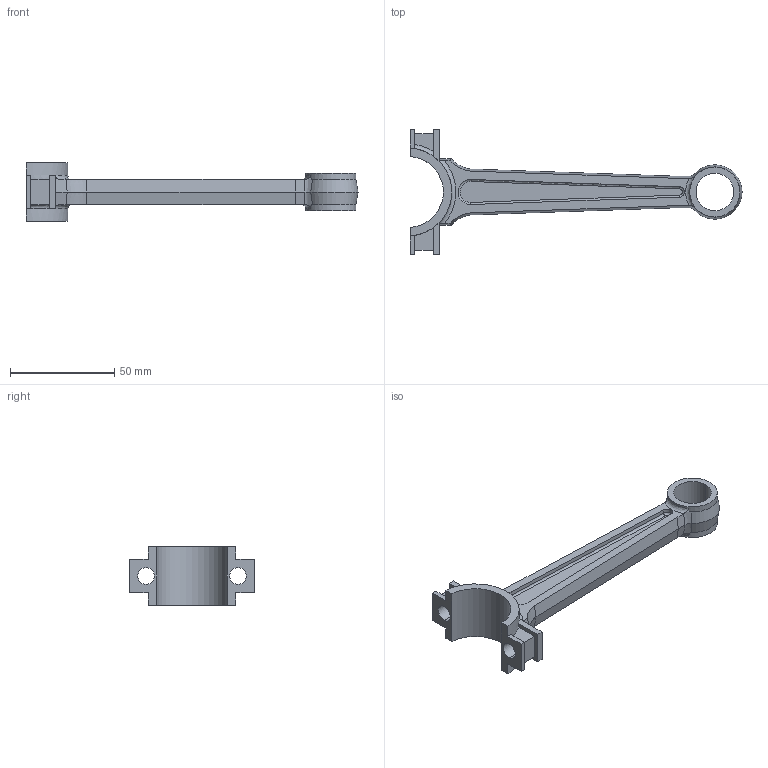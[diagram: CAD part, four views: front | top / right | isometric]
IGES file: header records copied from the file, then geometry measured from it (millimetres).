
Start section:  PTC IGES file: connecting_rodf.igs
Global section: file name: connecting_rodf.igs; native system: Pro/ENGINEER by Parametric Technology Corporation; preprocessor: 2004110; author: kumar; organization: Unknown; date: 090210.042433; units: millimetre
Bounding box: 159 x 60 x 28 mm (x, y, z)
Surface area: 16257.6 mm2 (no closed solid volume)
Topology: 0 solids, 0 shells, 92 faces, 472 edges, 472 vertices
Faces by surface type: bspline 54, revolution 38
